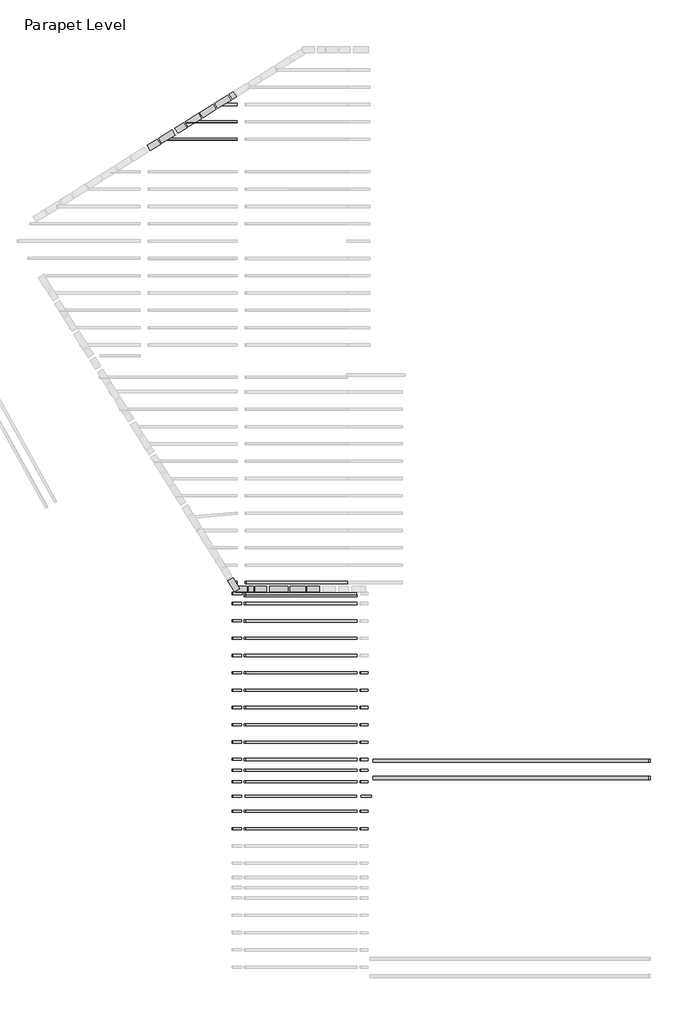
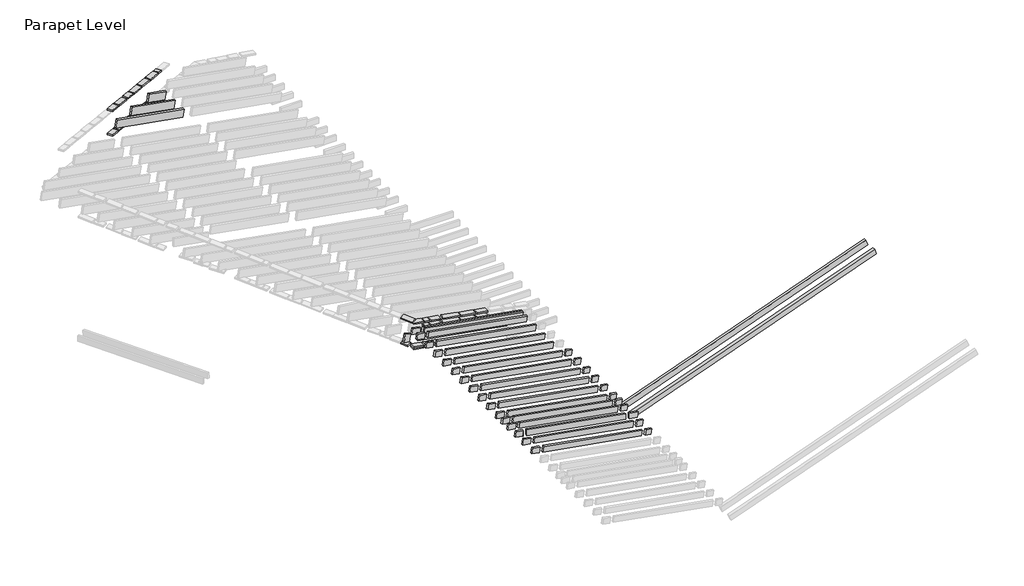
# One storey, part 3 of 4: 85 beams.
"""IFC4 building model written with IfcOpenShell, lengths in millimetres."""

from ifc_helpers import new_model, si_unit, frame, origin, place, context, project, spatial, polyline, outline, extrude, faceted_brep, transform, mapped, element, save
from components import beam_50x150_21f94889, beam_50x150_4e307baa, beam_50x150_b006d7be, beam_50x150_5c7ec585, beam_50x150_ea457183, beam_50x150_991030f9, beam_50x225_7f7f86ef, beam_50x225_1ea18a3f, beam_50x225_a7e6d11b, beam_50x225_69942fed, beam_50x225_0182384d, beam_75x150_52f7aa44

model = new_model("IFC4")

# Units and contexts
model_context = context("Model", 3, world=origin())
ifc_project = project(units=[si_unit("LENGTHUNIT", "METRE", prefix="MILLI")], contexts=[model_context])

# Site, building, storey
site = spatial("IfcSite", under=ifc_project)
building = spatial("IfcBuilding", under=site)
storey = spatial("IfcBuildingStorey", under=building, Name="Parapet Level", Elevation=4242.0)

# Beams
placement = place(None, origin())
element("IfcBeam", 1, ObjectType="Graded Timber : 38x140", at=placement, inside=storey, context=model_context, shape_type="Brep", body=[
    faceted_brep([(-31996.4873155, 17306.1805045, 3209.5723829), (-31996.4873155, 17306.1805046, 3247.9948807), (-31922.2986167, 17187.4537723, 3247.9948807), (-31922.2986166, 17187.4537722, 3209.5723829), (-32091.4687023, 17246.829547, 3264.7426618), (-32091.4687023, 17246.8295469, 3226.320164), (-32017.2800034, 17128.1028148, 3264.7426618), (-32017.2800034, 17128.1028147, 3226.320164)], [[[0, 1, 2, 3]], [[4, 1, 0, 5]], [[6, 2, 1, 4]], [[7, 3, 2, 6]], [[5, 0, 3, 7]], [[4, 5, 7, 6]]]),
])
element("IfcBeam", 2, ObjectType="Graded Timber : 38x140", at=placement, inside=storey, context=model_context, shape_type="Brep", body=[
    faceted_brep([(-32769.9071549, 16822.8941512, 3384.3696657), (-32462.913744, 17014.7249247, 3330.2384445), (-32462.913744, 17014.7249246, 3291.8159467), (-32769.9071549, 16822.8941511, 3345.9471679), (-32695.718456, 16704.1674189, 3384.3696657), (-32388.7250452, 16895.9981924, 3330.2384445), (-32388.7250451, 16895.9981924, 3291.8159467), (-32695.718456, 16704.1674188, 3345.9471679)], [[[0, 1, 2, 3]], [[4, 5, 1, 0]], [[2, 1, 5, 6]], [[3, 2, 6, 7]], [[7, 6, 5, 4]], [[0, 3, 7, 4]]]),
])
element("IfcBeam", 3, ObjectType="Graded Timber : 38x140", at=placement, inside=storey, context=model_context, shape_type="Brep", body=[
    faceted_brep([(-33109.1263934, 16610.9264456, 3444.1831699), (-32802.1329826, 16802.7572192, 3390.0519486), (-32802.1329825, 16802.7572191, 3351.6294508), (-33109.1263934, 16610.9264455, 3405.760672), (-33034.9376945, 16492.1997133, 3444.1831699), (-32727.9442837, 16684.0304869, 3390.0519486), (-32727.9442836, 16684.0304868, 3351.6294508), (-33034.9376945, 16492.1997133, 3405.760672)], [[[0, 1, 2, 3]], [[4, 5, 1, 0]], [[2, 1, 5, 6]], [[3, 2, 6, 7]], [[7, 6, 5, 4]], [[0, 3, 7, 4]]]),
])
element("IfcBeam", 4, ObjectType="Graded Timber : 38x140", at=placement, inside=storey, context=model_context, shape_type="Brep", body=[
    faceted_brep([(-33349.8796966, 16460.4870852, 3486.6344729), (-33141.3522211, 16590.7895136, 3449.8654527), (-33141.352221, 16590.7895135, 3411.4429549), (-33349.8796965, 16460.4870852, 3448.2119751), (-33275.6909977, 16341.760353, 3486.6344729), (-33067.1635222, 16472.0627813, 3449.8654527), (-33067.1635222, 16472.0627812, 3411.4429549), (-33275.6909976, 16341.7603529, 3448.2119751)], [[[0, 1, 2, 3]], [[4, 5, 1, 0]], [[2, 1, 5, 6]], [[3, 2, 6, 7]], [[7, 6, 5, 4]], [[0, 3, 7, 4]]]),
])
element("IfcBeam", 5, ObjectType="Graded Timber : 38x140", at=placement, inside=storey, context=model_context, shape_type="Brep", body=[
    faceted_brep([(-33414.3313518, 16420.2132211, 3459.5765408), (-33414.3313519, 16420.2132212, 3497.9990387), (-33340.142653, 16301.4864889, 3497.9990387), (-33340.1426529, 16301.4864888, 3459.5765408), (-33721.3323387, 16228.3777137, 3552.1315957), (-33721.3323387, 16228.3777136, 3513.7090979), (-33647.1436398, 16109.6509814, 3552.1315957), (-33647.1436398, 16109.6509813, 3513.7090979)], [[[0, 1, 2, 3]], [[4, 1, 0, 5]], [[6, 2, 1, 4]], [[7, 3, 2, 6]], [[5, 0, 3, 7]], [[4, 5, 7, 6]]]),
])
element("IfcBeam", 6, ObjectType="Graded Timber : 38x140", at=placement, inside=storey, context=model_context, shape_type="Brep", body=[
    faceted_brep([(-33987.6118722, 16061.9877943, 3599.0838619), (-33987.6118721, 16061.9877942, 3560.6613641), (-33913.4231732, 15943.2610619, 3560.6613641), (-33913.4231733, 15943.261062, 3599.0838619), (-33753.5581664, 16208.2407816, 3557.8138786), (-33753.5581663, 16208.2407816, 3519.3913808), (-33679.3694674, 16089.5140493, 3519.3913808), (-33679.3694675, 16089.5140494, 3557.8138786)], [[[0, 1, 2, 3]], [[0, 4, 5, 1]], [[1, 5, 6, 2]], [[2, 6, 7, 3]], [[3, 7, 4, 0]], [[4, 7, 6, 5]]]),
])
element("IfcBeam", 7, ObjectType="Graded Timber : 38x140", at=placement, inside=storey, context=model_context, shape_type="Brep", body=[
    faceted_brep([(-32017.2799899, 17128.102793, 3944.7819214), (-31922.2986031, 17187.4537506, 3928.0341402), (-31996.487302, 17306.1804829, 3928.0341405), (-32091.4686887, 17246.8295253, 3944.7819217), (-32017.2799899, 17128.102793, 3906.3594235), (-31922.2986031, 17187.4537506, 3889.6116424), (-31996.487302, 17306.1804829, 3889.6116427), (-32091.4686887, 17246.8295253, 3906.3594239)], [[[0, 1, 2, 3]], [[4, 5, 1, 0]], [[3, 2, 6, 7]], [[3, 7, 4, 0]], [[7, 6, 5, 4]], [[2, 1, 5, 6]]]),
])
element("IfcBeam", 8, ObjectType="Graded Timber : 38x140", at=placement, inside=storey, context=model_context, shape_type="Brep", body=[
    faceted_brep([(-32769.9071378, 16822.8941238, 4064.4089256), (-32462.913727, 17014.7248974, 4010.2777044), (-32462.913727, 17014.7248974, 3971.8552066), (-32769.9071378, 16822.8941238, 4025.9864278), (-32695.7184389, 16704.1673915, 4064.4089253), (-32388.7250281, 16895.9981651, 4010.277704), (-32388.7250281, 16895.9981651, 3971.8552062), (-32695.7184389, 16704.1673915, 4025.9864274)], [[[0, 1, 2, 3]], [[4, 5, 1, 0]], [[2, 1, 5, 6]], [[3, 2, 6, 7]], [[7, 6, 5, 4]], [[0, 3, 7, 4]]]),
])
element("IfcBeam", 9, ObjectType="Graded Timber : 38x140", at=placement, inside=storey, context=model_context, shape_type="Brep", body=[
    faceted_brep([(-33109.1263728, 16610.9264127, 4124.2224297), (-32802.132962, 16802.7571863, 4070.0912085), (-32802.132962, 16802.7571863, 4031.6687107), (-33109.1263728, 16610.9264127, 4085.7999319), (-33034.9376739, 16492.1996804, 4124.2224294), (-32727.9442631, 16684.030454, 4070.0912082), (-32727.9442631, 16684.030454, 4031.6687103), (-33034.9376739, 16492.1996804, 4085.7999316)], [[[0, 1, 2, 3]], [[4, 5, 1, 0]], [[2, 1, 5, 6]], [[3, 2, 6, 7]], [[7, 6, 5, 4]], [[0, 3, 7, 4]]]),
])
element("IfcBeam", 10, ObjectType="Graded Timber : 38x140", at=placement, inside=storey, context=model_context, shape_type="Brep", body=[
    faceted_brep([(-33349.8796759, 16460.4870522, 4166.6737327), (-33141.3522005, 16590.7894806, 4129.9047126), (-33141.3522005, 16590.7894806, 4091.4822148), (-33349.8796759, 16460.4870522, 4128.2512349), (-33275.690977, 16341.7603199, 4166.6737324), (-33067.1635016, 16472.0627483, 4129.9047123), (-33067.1635016, 16472.0627483, 4091.4822145), (-33275.690977, 16341.7603199, 4128.2512346)], [[[0, 1, 2, 3]], [[4, 5, 1, 0]], [[6, 2, 1, 5]], [[3, 2, 6, 7]], [[7, 6, 5, 4]], [[0, 3, 7, 4]]]),
])
element("IfcBeam", 11, ObjectType="Graded Timber : 38x140", at=placement, inside=storey, context=model_context, shape_type="Brep", body=[
    faceted_brep([(-33414.3313312, 16420.2131881, 4139.6158007), (-33414.3313312, 16420.2131881, 4178.0382985), (-33340.1426323, 16301.4864558, 4178.0382982), (-33340.1426323, 16301.4864558, 4139.6158004), (-33721.332318, 16228.3776805, 4232.1708556), (-33721.332318, 16228.3776805, 4193.7483578), (-33647.1436191, 16109.6509482, 4232.1708553), (-33647.1436191, 16109.6509482, 4193.7483574)], [[[0, 1, 2, 3]], [[4, 1, 0, 5]], [[6, 2, 1, 4]], [[7, 3, 2, 6]], [[5, 0, 3, 7]], [[4, 5, 7, 6]]]),
])
element("IfcBeam", 12, ObjectType="Graded Timber : 38x140", at=placement, inside=storey, context=model_context, shape_type="Brep", body=[
    faceted_brep([(-33987.6118514, 16061.987761, 4279.1231217), (-33987.6118514, 16061.987761, 4240.7006239), (-33913.4231525, 15943.2610287, 4240.7006236), (-33913.4231525, 15943.2610287, 4279.1231214), (-33753.5581456, 16208.2407484, 4237.8531385), (-33753.5581456, 16208.2407484, 4199.4306407), (-33679.3694467, 16089.5140162, 4199.4306403), (-33679.3694467, 16089.5140162, 4237.8531382)], [[[0, 1, 2, 3]], [[0, 4, 5, 1]], [[1, 5, 6, 2]], [[2, 6, 7, 3]], [[3, 7, 4, 0]], [[4, 7, 6, 5]]]),
])
element("IfcBeam", 13, ObjectType="Graded Timber : 38x140", at=placement, inside=storey, context=model_context, shape_type="Brep", body=[
    faceted_brep([(-31966.579328, 5753.3582221, 3930.4584603), (-31968.4527436, 5756.3563137, 3892.6232682), (-31849.72601, 5830.5450106, 3892.623268), (-31847.8525944, 5827.546919, 3930.4584601), (-32121.9966023, 6002.0778533, 3957.8627191), (-32121.9966024, 6002.0778533, 3919.6971933), (-32003.2698701, 6076.2665522, 3919.6971933), (-32003.26987, 6076.2665522, 3957.8627191)], [[[0, 1, 2, 3]], [[1, 0, 4, 5]], [[2, 1, 5, 6]], [[3, 2, 6, 7]], [[0, 3, 7, 4]], [[5, 4, 7, 6]]]),
])
element("IfcBeam", 14, ObjectType="Graded Timber : 38x140", at=placement, inside=storey, context=model_context, shape_type="Brep", body=[
    faceted_brep([(-32028.1308586, 5851.860963, 3251.4526954), (-32121.9967367, 6002.0777693, 3268.0037824), (-32121.9967368, 6002.0777693, 3229.8382566), (-32028.1308586, 5851.860963, 3213.2871696), (-31909.4041263, 5926.0496619, 3251.4526954), (-32003.2700044, 6076.2664682, 3268.0037824), (-32003.2700045, 6076.2664682, 3229.8382566), (-31909.4041264, 5926.0496619, 3213.2871696)], [[[0, 1, 2, 3]], [[4, 5, 1, 0]], [[2, 1, 5, 6]], [[3, 2, 6, 7]], [[7, 6, 5, 4]], [[0, 3, 7, 4]]]),
])
element("IfcBeam", 15, ObjectType="Graded Timber : 38x140", at=placement, inside=storey, context=model_context, shape_type="SweptSolid", body=[
    extrude(outline(polyline([(24.2348164, 0.0), (286.436591, 0.0), (293.1368666, -38.0), (30.9350921, -38.0), (24.2348164, 0.0)])), frame((-31207.0704595, 5877.100158, 3737.211336), z_axis=(0.0, -0.9999993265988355, 0.0011605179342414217), x_axis=(-0.9848084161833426, 0.00020151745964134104, 0.17364429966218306)), (0.0, 0.0, 1.0), 140.0),
])
element("IfcBeam", 16, ObjectType="Graded Timber : 38x140", at=placement, inside=storey, context=model_context, shape_type="SweptSolid", body=[
    extrude(outline(polyline([(3.5267544, 1e-07), (437.9071665, 0.0), (444.6074421, -38.0), (10.22703, -37.9999999), (3.5267544, 1e-07)])), frame((-30723.6824476, 5877.0830947, 3651.9788533), z_axis=(0.0, -0.9999993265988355, 0.0011605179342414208), x_axis=(-0.9848084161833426, 0.00020151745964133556, 0.17364429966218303)), (0.0, 0.0, 1.0), 140.0),
])
element("IfcBeam", 17, ObjectType="Graded Timber : 38x140", at=placement, inside=storey, context=model_context, shape_type="SweptSolid", body=[
    extrude(outline(polyline([(3.5267544, 0.0), (371.1109403, 0.0), (377.811216, -38.0), (10.22703, -38.0), (3.5267544, 0.0)])), frame((-30323.6824476, 5877.0830947, 3581.4495886), z_axis=(0.0, -0.9999993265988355, 0.0011605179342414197), x_axis=(-0.9848084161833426, 0.00020151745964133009, 0.173644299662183)), (0.0, 0.0, 1.0), 140.0),
])
element("IfcBeam", 18, ObjectType="Graded Timber : 38x140", at=placement, inside=storey, context=model_context, shape_type="SweptSolid", body=[
    extrude(outline(polyline([(170.4814903, 0.0), (461.1151908, 0.0), (467.8154664, -38.0000001), (177.1817659, -38.0), (170.4814903, 0.0)])), frame((-29835.0455043, 5877.0649572, 3495.2915989), z_axis=(0.0, -0.9999993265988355, 0.0011605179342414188), x_axis=(-0.9848084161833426, 0.0002015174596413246, 0.17364429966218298)), (0.0, 0.0, 1.0), 140.0),
])
element("IfcBeam", 19, ObjectType="Graded Timber : 38x140", at=placement, inside=storey, context=model_context, shape_type="SweptSolid", body=[
    extrude(outline(polyline([(13.4313549, 0.0), (282.5192258, 0.0), (289.2195014, -38.0), (20.1316305, -38.0), (13.4313549, 0.0)])), frame((-31664.3742056, 5876.4394329, 3817.8453451), z_axis=(0.0, -0.9999993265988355, 0.0011605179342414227), x_axis=(-0.9848084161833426, 0.0002015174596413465, 0.1736442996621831)), (0.0, 0.0, 1.0), 140.0),
])
element("IfcBeam", 20, ObjectType="Graded Timber : 38x140", at=placement, inside=storey, context=model_context, shape_type="SweptSolid", body=[
    extrude(outline(polyline([(79.511361, 0.0), (193.6918352, 0.0), (200.3921108, -38.0000001), (86.2116366, -38.0), (79.511361, 0.0)])), frame((-31448.8521675, 5877.034635, 3779.6673922), z_axis=(0.0, -0.9999993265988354, 0.0011605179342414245), x_axis=(-0.9848084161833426, 0.00020151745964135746, 0.17364429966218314)), (0.0, 0.0, 1.0), 140.0),
])
element("IfcBeam", 21, ObjectType="Graded Timber : 38x140", at=placement, inside=storey, context=model_context, shape_type="SweptSolid", body=[
    extrude(outline(polyline([(220.8718175, 0.0), (511.5055181, 0.0), (518.2057937, -38.0000001), (227.5720932, -38.0), (220.8718175, 0.0)])), frame((-29785.4206859, 5876.6942536, 3363.6141245), z_axis=(0.0, -0.9999993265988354, 0.0011605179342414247), x_axis=(-0.9848084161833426, 0.00020151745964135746, 0.17364429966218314)), (0.0, 0.0, 1.0), 140.0),
])
element("IfcBeam", 22, ObjectType="Graded Timber : 38x140", at=placement, inside=storey, context=model_context, shape_type="SweptSolid", body=[
    extrude(outline(polyline([(79.2008384, 0.0), (446.7850244, 0.0), (453.4853, -38.0), (85.901114, -38.0), (79.2008384, 0.0)])), frame((-30249.1579728, 5876.7891463, 3445.2207891), z_axis=(0.0, -0.9999993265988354, 0.001160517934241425), x_axis=(-0.9848084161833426, 0.00020151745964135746, 0.17364429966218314)), (0.0, 0.0, 1.0), 140.0),
])
element("IfcBeam", 23, ObjectType="Graded Timber : 38x140", at=placement, inside=storey, context=model_context, shape_type="SweptSolid", body=[
    extrude(outline(polyline([(8.2007114, 0.0), (442.5811235, 0.0), (449.2813992, -38.0), (14.900987, -37.9999999), (8.2007114, 0.0)])), frame((-30719.0794954, 5876.8853045, 3528.2430881), z_axis=(0.0, -0.9999993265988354, 0.0011605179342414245), x_axis=(-0.9848084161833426, 0.00020151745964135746, 0.17364429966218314)), (0.0, 0.0, 1.0), 140.0),
])
element("IfcBeam", 24, ObjectType="Graded Timber : 38x140", at=placement, inside=storey, context=model_context, shape_type="SweptSolid", body=[
    extrude(outline(polyline([(26.8427693, 0.0), (141.0232434, 0.0), (147.723519, -38.0), (33.5430449, -37.9999999), (26.8427693, 0.0)])), frame((-31500.7206399, 5877.0452486, 3666.0656961), z_axis=(0.0, -0.9999993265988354, 0.0011605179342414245), x_axis=(-0.9848084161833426, 0.00020151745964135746, 0.17364429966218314)), (0.0, 0.0, 1.0), 140.0),
])
element("IfcBeam", 25, ObjectType="Graded Timber : 38x140", at=placement, inside=storey, context=model_context, shape_type="SweptSolid", body=[
    extrude(outline(polyline([(76.4381689, 0.0), (338.6399435, 0.0), (345.3402191, -38.0), (83.1384446, -38.0), (76.4381689, 0.0)])), frame((-31155.6601586, 5876.9746403, 3605.223623), z_axis=(0.0, -0.9999993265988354, 0.0011605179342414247), x_axis=(-0.9848084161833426, 0.00020151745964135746, 0.17364429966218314)), (0.0, 0.0, 1.0), 140.0),
])
element("IfcBeam", 26, ObjectType="Graded Timber : 38x140", at=placement, inside=storey, context=model_context, shape_type="SweptSolid", body=[
    extrude(outline(polyline([(29.7207775, 0.0), (143.9012516, 1e-07), (150.6015272, -38.0), (36.4210531, -38.0), (29.7207775, 0.0)])), frame((-31497.8863532, 5876.9857477, 3626.9797871), z_axis=(0.0, -0.9999993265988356, 0.0011605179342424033), x_axis=(-0.9848084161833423, 0.00020151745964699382, 0.17364429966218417)), (0.0, 0.0, 1.0), 140.0),
])
element("IfcBeam", 27, ObjectType="Graded Timber : 38x140", at=placement, inside=storey, context=model_context, shape_type="SweptSolid", body=[
    extrude(outline(polyline([(68.4675124, -1e-07), (330.6692869, -1e-07), (337.3695625, -38.0000001), (75.167788, -38.0), (68.4675124, -1e-07)])), frame((-31163.5097283, 5876.9173255, 3568.1839953), z_axis=(0.0, -0.9999993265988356, 0.0011605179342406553), x_axis=(-0.9848084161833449, 0.00020151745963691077, 0.17364429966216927)), (0.0, 0.0, 1.0), 140.0),
])
element("IfcBeam", 28, ObjectType="Graded Timber : 38x140", at=placement, inside=storey, context=model_context, shape_type="SweptSolid", body=[
    extrude(outline(polyline([(27.0494112, 0.0), (296.1372821, 0.0), (302.8375578, -38.0000001), (33.7496868, -38.0000001), (27.0494112, 0.0)])), frame((-31650.9630291, 5877.017776, 3157.8953738), z_axis=(0.0, -0.9999993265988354, 0.0011605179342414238), x_axis=(-0.9848084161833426, 0.00020151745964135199, 0.17364429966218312)), (0.0, 0.0, 1.0), 140.0),
])
element("IfcBeam", 29, ObjectType="Graded Timber : 38x140", at=placement, inside=storey, context=model_context, shape_type="SweptSolid", body=[
    extrude(outline(polyline([(27.0494112, 1e-07), (296.1372821, 1e-07), (302.8375578, -38.0), (33.7496868, -38.0), (27.0494112, 1e-07)])), frame((-31650.9630291, 5877.017776, 3119.3092146), z_axis=(0.0, -0.9999993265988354, 0.001160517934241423), x_axis=(-0.9848084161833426, 0.0002015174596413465, 0.1736442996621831)), (0.0, 0.0, 1.0), 140.0),
])
element("IfcBeam", 30, ObjectType="Graded Timber : 38x140", at=placement, inside=storey, context=model_context, shape_type="SweptSolid", body=[
    extrude(outline(polyline([(79.511361, 1e-07), (193.6918351, 1e-07), (200.3921108, -38.0), (86.2116366, -37.9999999), (79.511361, 1e-07)])), frame((-31448.8521675, 5877.0881072, 3122.1163444), z_axis=(0.0, -0.9999993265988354, 0.0011605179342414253), x_axis=(-0.9848084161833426, 0.00020151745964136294, 0.17364429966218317)), (0.0, 0.0, 1.0), 140.0),
])
element("IfcBeam", 31, ObjectType="Graded Timber : 38x140", at=placement, inside=storey, context=model_context, shape_type="SweptSolid", body=[
    extrude(outline(polyline([(152.0053511, -1e-07), (414.2071257, 0.0), (420.9074013, -38.0000001), (158.7056268, -38.0000001), (152.0053511, -1e-07)])), frame((-31081.2409616, 5876.9594121, 3057.2981236), z_axis=(0.0, -0.9999993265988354, 0.0011605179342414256), x_axis=(-0.9848084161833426, 0.00020151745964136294, 0.17364429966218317)), (0.0, 0.0, 1.0), 140.0),
])
element("IfcBeam", 32, ObjectType="Graded Timber : 38x140", at=placement, inside=storey, context=model_context, shape_type="Brep", body=[
    faceted_brep([(-32356.4992175, 16916.1351245, 3324.5561616), (-32049.5058066, 17107.965898, 3270.4249404), (-32123.6945055, 17226.6926303, 3270.4249404), (-32430.6879164, 17034.8618567, 3324.5561616), (-32356.4992174, 16916.1351244, 3286.1336638), (-32049.5058066, 17107.9658979, 3232.0024426), (-32123.6945055, 17226.6926302, 3232.0024426), (-32430.6879163, 17034.8618567, 3286.1336638)], [[[0, 1, 2, 3]], [[4, 5, 1, 0]], [[3, 2, 6, 7]], [[3, 7, 4, 0]], [[7, 6, 5, 4]], [[2, 1, 5, 6]]]),
])
element("IfcBeam", 33, ObjectType="Graded Timber : 38x140", at=placement, inside=storey, context=model_context, shape_type="Brep", body=[
    faceted_brep([(-32356.4992038, 16916.1351026, 4004.5954212), (-32049.505793, 17107.9658763, 3950.4641999), (-32123.6944919, 17226.6926085, 3950.4642003), (-32430.6879027, 17034.8618349, 4004.5954215), (-32356.4992038, 16916.1351026, 3966.1729233), (-32049.505793, 17107.9658763, 3912.0417021), (-32123.6944919, 17226.6926085, 3912.0417024), (-32430.6879027, 17034.8618349, 3966.1729237)], [[[0, 1, 2, 3]], [[4, 5, 1, 0]], [[3, 2, 6, 7]], [[3, 7, 4, 0]], [[7, 6, 5, 4]], [[2, 1, 5, 6]]]),
])
element("IfcBeam", 34, ObjectType="Graded Timber : 50x150", at=placement, inside=storey, context=model_context, shape_type="SweptSolid", body=[
    extrude(outline(polyline([(3288.7694641, -29142.1341292), (3742.7005252, -31716.5051035), (3594.9793623, -31742.5523301), (3136.4554723, -29142.1341292), (3288.7694641, -29142.1341292)])), frame((0.0, 5684.8339753, 0.0), z_axis=(0.0, 1.0, 0.0), x_axis=(0.0, 0.0, 1.0)), (0.0, 0.0, 1.0), 50.0),
])
element("IfcBeam", 35, ObjectType="Graded Timber : 50x150", at=placement, inside=storey, context=model_context, shape_type="SweptSolid", body=[
    extrude(outline(polyline([(3081.779548, -28832.0515536), (3229.500711, -28806.004327), (3271.1367661, -29042.1341292), (3118.8227743, -29042.1341292), (3081.779548, -28832.0515536)])), frame((0.0, 1006.80418, 0.0), z_axis=(0.0, 1.0, 0.0), x_axis=(0.0, 0.0, 1.0)), (0.0, 0.0, 1.0), 50.0),
])
element("IfcBeam", 36, ObjectType="Graded Timber : 50x150", at=placement, inside=storey, context=model_context, shape_type="SweptSolid", body=[
    extrude(outline(polyline([(3288.7694641, -29142.1341292), (3743.3090041, -31719.9559584), (3590.9950123, -31719.9559584), (3136.4554723, -29142.1341292), (3288.7694641, -29142.1341292)])), frame((0.0, 1006.80418, 0.0), z_axis=(0.0, 1.0, 0.0), x_axis=(0.0, 0.0, 1.0)), (0.0, 0.0, 1.0), 50.0),
])
element("IfcBeam", 37, ObjectType="Graded Timber : 50x150", at=placement, inside=storey, context=model_context, shape_type="SweptSolid", body=[
    extrude(outline(polyline([(3760.9417021, -31819.9559584), (3792.2694665, -31997.624539), (3644.5483036, -32023.6717656), (3608.6277104, -31819.9559584), (3760.9417021, -31819.9559584)])), frame((0.0, 1006.80418, 0.0), z_axis=(0.0, 1.0, 0.0), x_axis=(0.0, 0.0, 1.0)), (0.0, 0.0, 1.0), 50.0),
])
beam_50x150_shape = beam_50x150_21f94889(model_context)
element("IfcBeam", 38, ObjectType="Graded Timber : 50x150", at=placement, inside=storey, context=model_context, shape_type="MappedRepresentation", body=[
    mapped(beam_50x150_shape, transform((-28977.581783, 278.787171, 3183.5974499), x_axis=(0.9848077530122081, 0.0, -0.17364817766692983), y_axis=(0.0, 1.0, 0.0), z_axis=(0.17364817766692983, 0.0, 0.9848077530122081))),
])
element("IfcBeam", 39, ObjectType="Graded Timber : 50x150", at=placement, inside=storey, context=model_context, shape_type="MappedRepresentation", body=[
    mapped(beam_50x150_shape, transform((-28977.5813821, 678.787171, 3183.5973792), x_axis=(0.9848077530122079, 0.0, -0.173648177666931), y_axis=(0.0, 1.0, 0.0), z_axis=(0.17364817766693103, 0.0, 0.984807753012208))),
])
element("IfcBeam", 40, ObjectType="Graded Timber : 50x150", at=placement, inside=storey, context=model_context, shape_type="MappedRepresentation", body=[
    mapped(beam_50x150_shape, transform((-28977.5801794, 1878.787171, 3183.5971671), x_axis=(0.9848077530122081, 0.0, -0.17364817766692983), y_axis=(0.0, 1.0, 0.0), z_axis=(0.17364817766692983, 0.0, 0.9848077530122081))),
])
element("IfcBeam", 41, ObjectType="Graded Timber : 50x150", at=placement, inside=storey, context=model_context, shape_type="MappedRepresentation", body=[
    mapped(beam_50x150_shape, transform((-28977.5805803, 1626.4648405, 3183.5972378), x_axis=(0.9848077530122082, 0.0, -0.17364817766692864), y_axis=(0.0, 0.9999999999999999, 0.0), z_axis=(0.17364817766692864, 0.0, 0.9848077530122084))),
])
beam_50x150_2_shape = beam_50x150_4e307baa(model_context)
element("IfcBeam", 42, ObjectType="Graded Timber : 50x150", at=placement, inside=storey, context=model_context, shape_type="MappedRepresentation", body=[
    mapped(beam_50x150_2_shape, transform((-31915.7468054, 280.513771, 3701.6752171), x_axis=(0.9848077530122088, 0.0, -0.17364817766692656), y_axis=(0.0, 1.0000000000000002, 0.0), z_axis=(0.17364817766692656, 0.0, 0.9848077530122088))),
])
element("IfcBeam", 43, ObjectType="Graded Timber : 50x150", at=placement, inside=storey, context=model_context, shape_type="MappedRepresentation", body=[
    mapped(beam_50x150_2_shape, transform((-31915.7468054, 680.513771, 3701.6752171), x_axis=(0.9848077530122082, 0.0, -0.17364817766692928), y_axis=(0.0, 1.0, 0.0), z_axis=(0.17364817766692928, 0.0, 0.9848077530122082))),
])
element("IfcBeam", 44, ObjectType="Graded Timber : 50x150", at=placement, inside=storey, context=model_context, shape_type="MappedRepresentation", body=[
    mapped(beam_50x150_2_shape, transform((-31915.7468054, 1880.513771, 3701.6752171), x_axis=(0.9848077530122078, 0.0, -0.173648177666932), y_axis=(0.0, 1.0, 0.0), z_axis=(0.173648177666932, 0.0, 0.9848077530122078))),
])
element("IfcBeam", 45, ObjectType="Graded Timber : 50x150", at=placement, inside=storey, context=model_context, shape_type="MappedRepresentation", body=[
    mapped(beam_50x150_2_shape, transform((-31915.7468054, 2280.513771, 3701.6752171), x_axis=(0.9848077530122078, 0.0, -0.173648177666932), y_axis=(0.0, 1.0, 0.0), z_axis=(0.173648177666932, 0.0, 0.9848077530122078))),
])
element("IfcBeam", 46, ObjectType="Graded Timber : 50x150", at=placement, inside=storey, context=model_context, shape_type="MappedRepresentation", body=[
    mapped(beam_50x150_2_shape, transform((-31915.7468054, 2680.513771, 3701.6752171), x_axis=(0.9848077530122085, 0.0, -0.17364817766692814), y_axis=(0.0, 1.0, 0.0), z_axis=(0.17364817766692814, 0.0, 0.9848077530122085))),
])
element("IfcBeam", 47, ObjectType="Graded Timber : 50x150", at=placement, inside=storey, context=model_context, shape_type="MappedRepresentation", body=[
    mapped(beam_50x150_2_shape, transform((-31915.7468054, 3080.513771, 3701.6752171), x_axis=(0.9848077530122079, 0.0, -0.17364817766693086), y_axis=(0.0, 1.0, 0.0), z_axis=(0.1736481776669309, 0.0, 0.984807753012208))),
])
element("IfcBeam", 48, ObjectType="Graded Timber : 50x150", at=placement, inside=storey, context=model_context, shape_type="MappedRepresentation", body=[
    mapped(beam_50x150_2_shape, transform((-31915.7468054, 3480.513771, 3701.6752171), x_axis=(0.9848077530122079, 0.0, -0.17364817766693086), y_axis=(0.0, 1.0, 0.0), z_axis=(0.1736481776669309, 0.0, 0.984807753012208))),
])
element("IfcBeam", 49, ObjectType="Graded Timber : 50x150", at=placement, inside=storey, context=model_context, shape_type="MappedRepresentation", body=[
    mapped(beam_50x150_2_shape, transform((-31915.7468054, 3880.513771, 3701.6752171), x_axis=(0.9848077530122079, 0.0, -0.17364817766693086), y_axis=(0.0, 1.0, 0.0), z_axis=(0.1736481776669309, 0.0, 0.984807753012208))),
])
element("IfcBeam", 50, ObjectType="Graded Timber : 50x150", at=placement, inside=storey, context=model_context, shape_type="MappedRepresentation", body=[
    mapped(beam_50x150_2_shape, transform((-31915.7468054, 4280.513771, 3701.6752171), x_axis=(0.9848077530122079, 0.0, -0.17364817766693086), y_axis=(0.0, 1.0, 0.0), z_axis=(0.1736481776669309, 0.0, 0.984807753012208))),
])
element("IfcBeam", 51, ObjectType="Graded Timber : 50x150", at=placement, inside=storey, context=model_context, shape_type="MappedRepresentation", body=[
    mapped(beam_50x150_2_shape, transform((-31915.7468054, 4680.513771, 3701.6752171), x_axis=(0.9848077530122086, 0.0, -0.17364817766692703), y_axis=(0.0, 1.0, 0.0), z_axis=(0.17364817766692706, 0.0, 0.9848077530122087))),
])
element("IfcBeam", 52, ObjectType="Graded Timber : 50x150", at=placement, inside=storey, context=model_context, shape_type="MappedRepresentation", body=[
    mapped(beam_50x150_2_shape, transform((-31915.7468054, 5080.513771, 3701.6752171), x_axis=(0.9848077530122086, 0.0, -0.17364817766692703), y_axis=(0.0, 1.0, 0.0), z_axis=(0.17364817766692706, 0.0, 0.9848077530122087))),
])
element("IfcBeam", 53, ObjectType="Graded Timber : 50x150", at=placement, inside=storey, context=model_context, shape_type="MappedRepresentation", body=[
    mapped(beam_50x150_2_shape, transform((-31915.7468054, 5480.513771, 3701.6752171), x_axis=(0.9848077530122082, 0.0, -0.17364817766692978), y_axis=(0.0, 1.0000000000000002, 0.0), z_axis=(0.17364817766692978, 0.0, 0.9848077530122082))),
])
element("IfcBeam", 54, ObjectType="Graded Timber : 50x150", at=placement, inside=storey, context=model_context, shape_type="MappedRepresentation", body=[
    mapped(beam_50x150_2_shape, transform((-31915.7468054, 1366.80418, 3701.6752171), x_axis=(0.9848077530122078, 0.0, -0.173648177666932), y_axis=(0.0, 1.0, 0.0), z_axis=(0.173648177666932, 0.0, 0.9848077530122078))),
])
element("IfcBeam", 55, ObjectType="Graded Timber : 50x150", at=placement, inside=storey, context=model_context, shape_type="MappedRepresentation", body=[
    mapped(beam_50x150_2_shape, transform((-31915.7468054, 1626.4648405, 3701.6752171), x_axis=(0.9848077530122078, 0.0, -0.173648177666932), y_axis=(0.0, 1.0, 0.0), z_axis=(0.173648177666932, 0.0, 0.9848077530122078))),
])
beam_50x150_3_shape = beam_50x150_b006d7be(model_context)
element("IfcBeam", 56, ObjectType="Graded Timber : 50x150", at=placement, inside=storey, context=model_context, shape_type="MappedRepresentation", body=[
    mapped(beam_50x150_3_shape, transform((-28977.5797785, 2278.787171, 3183.5970964), x_axis=(0.984807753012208, 0.0, -0.17364817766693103), y_axis=(0.0, 1.0000000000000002, 0.0), z_axis=(0.17364817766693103, 0.0, 0.984807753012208))),
])
element("IfcBeam", 57, ObjectType="Graded Timber : 50x150", at=placement, inside=storey, context=model_context, shape_type="MappedRepresentation", body=[
    mapped(beam_50x150_3_shape, transform((-28977.5793776, 2678.787171, 3183.5970257), x_axis=(0.9848077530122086, 0.0, -0.17364817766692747), y_axis=(0.0, 1.0, 0.0), z_axis=(0.17364817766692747, 0.0, 0.9848077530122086))),
])
element("IfcBeam", 58, ObjectType="Graded Timber : 50x150", at=placement, inside=storey, context=model_context, shape_type="MappedRepresentation", body=[
    mapped(beam_50x150_3_shape, transform((-28977.5789767, 3078.787171, 3183.596955), x_axis=(0.9848077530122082, 0.0, -0.17364817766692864), y_axis=(0.0, 0.9999999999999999, 0.0), z_axis=(0.17364817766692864, 0.0, 0.9848077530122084))),
])
element("IfcBeam", 59, ObjectType="Graded Timber : 50x150", at=placement, inside=storey, context=model_context, shape_type="MappedRepresentation", body=[
    mapped(beam_50x150_3_shape, transform((-28977.5785758, 3478.787171, 3183.5968843), x_axis=(0.9848077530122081, 0.0, -0.17364817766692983), y_axis=(0.0, 1.0, 0.0), z_axis=(0.17364817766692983, 0.0, 0.9848077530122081))),
])
element("IfcBeam", 60, ObjectType="Graded Timber : 50x150", at=placement, inside=storey, context=model_context, shape_type="MappedRepresentation", body=[
    mapped(beam_50x150_3_shape, transform((-28977.5781749, 3878.787171, 3183.5968137), x_axis=(0.9848077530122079, 0.0, -0.17364817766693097), y_axis=(0.0, 1.0, 0.0), z_axis=(0.173648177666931, 0.0, 0.984807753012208))),
])
beam_50x150_4_shape = beam_50x150_5c7ec585(model_context)
element("IfcBeam", 61, ObjectType="Graded Timber : 50x150", at=placement, inside=storey, context=model_context, shape_type="MappedRepresentation", body=[
    mapped(beam_50x150_4_shape, transform((-30439.4354499, 278.787171, 3441.3616932), x_axis=(0.9848077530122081, 0.0, -0.17364817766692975), y_axis=(0.0, 1.0, 0.0), z_axis=(0.17364817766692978, 0.0, 0.9848077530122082))),
])
element("IfcBeam", 62, ObjectType="Graded Timber : 50x150", at=placement, inside=storey, context=model_context, shape_type="MappedRepresentation", body=[
    mapped(beam_50x150_4_shape, transform((-30439.4350738, 678.787171, 3441.3616268), x_axis=(0.9848077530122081, 0.0, -0.17364817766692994), y_axis=(0.0, 1.0, 0.0), z_axis=(0.17364817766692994, 0.0, 0.9848077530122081))),
])
element("IfcBeam", 63, ObjectType="Graded Timber : 50x150", at=placement, inside=storey, context=model_context, shape_type="MappedRepresentation", body=[
    mapped(beam_50x150_4_shape, transform((-30439.4343215, 1366.80418, 3441.3614942), x_axis=(0.9848077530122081, 0.0, -0.1736481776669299), y_axis=(0.0, 1.0, 0.0), z_axis=(0.1736481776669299, 0.0, 0.9848077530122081))),
])
element("IfcBeam", 64, ObjectType="Graded Timber : 50x150", at=placement, inside=storey, context=model_context, shape_type="MappedRepresentation", body=[
    mapped(beam_50x150_4_shape, transform((-30439.4339454, 1878.787171, 3441.3614279), x_axis=(0.9848077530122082, 0.0, -0.17364817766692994), y_axis=(0.0, 1.0000000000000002, 0.0), z_axis=(0.17364817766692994, 0.0, 0.9848077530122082))),
])
element("IfcBeam", 65, ObjectType="Graded Timber : 50x150", at=placement, inside=storey, context=model_context, shape_type="MappedRepresentation", body=[
    mapped(beam_50x150_4_shape, transform((-30439.4335693, 2278.787171, 3441.3613616), x_axis=(0.984807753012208, 0.0, -0.17364817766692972), y_axis=(0.0, 0.9999999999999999, 0.0), z_axis=(0.17364817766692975, 0.0, 0.9848077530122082))),
])
element("IfcBeam", 66, ObjectType="Graded Timber : 50x150", at=placement, inside=storey, context=model_context, shape_type="MappedRepresentation", body=[
    mapped(beam_50x150_4_shape, transform((-30439.4331932, 2678.787171, 3441.3612953), x_axis=(0.984807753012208, 0.0, -0.17364817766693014), y_axis=(0.0, 1.0, 0.0), z_axis=(0.17364817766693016, 0.0, 0.9848077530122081))),
])
element("IfcBeam", 67, ObjectType="Graded Timber : 50x150", at=placement, inside=storey, context=model_context, shape_type="MappedRepresentation", body=[
    mapped(beam_50x150_4_shape, transform((-30439.432817, 3078.787171, 3441.3612289), x_axis=(0.9848077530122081, 0.0, -0.17364817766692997), y_axis=(0.0, 1.0, 0.0), z_axis=(0.17364817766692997, 0.0, 0.9848077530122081))),
])
element("IfcBeam", 68, ObjectType="Graded Timber : 50x150", at=placement, inside=storey, context=model_context, shape_type="MappedRepresentation", body=[
    mapped(beam_50x150_4_shape, transform((-30439.4324409, 3478.787171, 3441.3611626), x_axis=(0.9848077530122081, 0.0, -0.17364817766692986), y_axis=(0.0, 1.0, 0.0), z_axis=(0.17364817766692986, 0.0, 0.9848077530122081))),
])
element("IfcBeam", 69, ObjectType="Graded Timber : 50x150", at=placement, inside=storey, context=model_context, shape_type="MappedRepresentation", body=[
    mapped(beam_50x150_4_shape, transform((-30439.4320648, 3878.787171, 3441.3610963), x_axis=(0.9848077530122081, 0.0, -0.17364817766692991), y_axis=(0.0, 1.0, 0.0), z_axis=(0.17364817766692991, 0.0, 0.9848077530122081))),
])
element("IfcBeam", 70, ObjectType="Graded Timber : 50x150", at=placement, inside=storey, context=model_context, shape_type="MappedRepresentation", body=[
    mapped(beam_50x150_4_shape, transform((-30439.4316887, 4278.787171, 3441.36103), x_axis=(0.9848077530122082, 0.0, -0.17364817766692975), y_axis=(0.0, 1.0000000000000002, 0.0), z_axis=(0.17364817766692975, 0.0, 0.9848077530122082))),
])
element("IfcBeam", 71, ObjectType="Graded Timber : 50x150", at=placement, inside=storey, context=model_context, shape_type="MappedRepresentation", body=[
    mapped(beam_50x150_4_shape, transform((-30439.4313126, 4678.787171, 3441.3609637), x_axis=(0.984807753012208, 0.0, -0.1736481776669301), y_axis=(0.0, 1.0, 0.0), z_axis=(0.17364817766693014, 0.0, 0.9848077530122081))),
])
element("IfcBeam", 72, ObjectType="Graded Timber : 50x150", at=placement, inside=storey, context=model_context, shape_type="MappedRepresentation", body=[
    mapped(beam_50x150_4_shape, transform((-30439.4309365, 5078.787171, 3441.3608973), x_axis=(0.984807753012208, 0.0, -0.17364817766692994), y_axis=(0.0, 0.9999999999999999, 0.0), z_axis=(0.17364817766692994, 0.0, 0.9848077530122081))),
])
element("IfcBeam", 73, ObjectType="Graded Timber : 50x150", at=placement, inside=storey, context=model_context, shape_type="MappedRepresentation", body=[
    mapped(beam_50x150_4_shape, transform((-30439.4305603, 5659.8339753, 3441.360831), x_axis=(0.9848077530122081, 0.0, -0.17364817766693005), y_axis=(0.0, 1.0, 0.0), z_axis=(0.17364817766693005, 0.0, 0.9848077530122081))),
])
element("IfcBeam", 74, ObjectType="Graded Timber : 50x150", at=placement, inside=storey, context=model_context, shape_type="MappedRepresentation", body=[
    mapped(beam_50x150_4_shape, transform((-30439.4309365, 5480.513771, 3441.3608973), x_axis=(0.984807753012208, 0.0, -0.17364817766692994), y_axis=(0.0, 0.9999999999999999, 0.0), z_axis=(0.17364817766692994, 0.0, 0.9848077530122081))),
])
element("IfcBeam", 75, ObjectType="Graded Timber : 50x150", at=placement, inside=storey, context=model_context, shape_type="MappedRepresentation", body=[
    mapped(beam_50x150_4_shape, transform((-30439.4343215, 1626.4648405, 3441.3614942), x_axis=(0.9848077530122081, 0.0, -0.1736481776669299), y_axis=(0.0, 1.0, 0.0), z_axis=(0.1736481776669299, 0.0, 0.9848077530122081))),
])
beam_50x150_5_shape = beam_50x150_ea457183(model_context)
element("IfcBeam", 76, ObjectType="Graded Timber : 50x150", at=placement, inside=storey, context=model_context, shape_type="MappedRepresentation", body=[
    mapped(beam_50x150_5_shape, transform((-28937.2040689, 1366.80418, 3176.4777694), x_axis=(0.9848077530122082, 0.0, -0.17364817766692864), y_axis=(0.0, 0.9999999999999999, 0.0), z_axis=(0.17364817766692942, 0.0, 0.9848077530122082))),
])
element("IfcBeam", 77, ObjectType="Graded Timber : 50x150", at=placement, inside=storey, context=model_context, shape_type="MappedRepresentation", body=[
    mapped(beam_50x150_2_shape, transform((-31915.7468054, 1031.80418, 3701.6752171), x_axis=(0.9848077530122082, 0.0, -0.17364817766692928), y_axis=(0.0, 1.0, 0.0), z_axis=(0.17364817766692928, 0.0, 0.9848077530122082))),
])
beam_50x150_6_shape = beam_50x150_991030f9(model_context)
element("IfcBeam", 78, ObjectType="Graded Timber : 50x150", at=placement, inside=storey, context=model_context, shape_type="MappedRepresentation", body=[
    mapped(beam_50x150_6_shape, transform((-31893.2347548, 5712.1718343, 3697.7057352), x_axis=(0.9848077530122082, 0.0, -0.17364817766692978), y_axis=(0.0, 1.0, 0.0), z_axis=(0.17364817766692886, 0.0, 0.9848077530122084))),
])
beam_50x225_shape = beam_50x225_7f7f86ef(model_context)
element("IfcBeam", 79, ObjectType="Graded Timber : 50x225", at=placement, inside=storey, context=model_context, shape_type="MappedRepresentation", body=[
    mapped(beam_50x225_shape, transform((-30540.3098873, 5968.2079383, 3124.2982093), x_axis=(0.9848083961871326, 0.0, -0.1736445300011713), y_axis=(-0.00019845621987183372, 0.9999993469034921, -0.001125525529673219), z_axis=(0.17364441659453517, 0.0011428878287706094, 0.9848077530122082))),
])
beam_50x225_2_shape = beam_50x225_1ea18a3f(model_context)
element("IfcBeam", 80, ObjectType="Graded Timber : 50x225", at=placement, inside=storey, context=model_context, shape_type="MappedRepresentation", body=[
    mapped(beam_50x225_2_shape, transform((-32490.8110173, 16607.4423243, 3455.8697047), x_axis=(0.9848083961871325, 0.0, -0.17364453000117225), y_axis=(-0.00019845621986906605, 0.9999993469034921, -0.0011255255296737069), z_axis=(0.1736444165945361, 0.0011428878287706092, 0.984807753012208))),
])
beam_50x225_3_shape = beam_50x225_a7e6d11b(model_context)
element("IfcBeam", 81, ObjectType="Graded Timber : 50x225", at=placement, inside=storey, context=model_context, shape_type="MappedRepresentation", body=[
    mapped(beam_50x225_3_shape, transform((-31992.3539857, 5966.9833333, 3380.3286368), x_axis=(0.9848083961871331, 0.0, -0.17364453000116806), y_axis=(-0.0001984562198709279, 0.9999993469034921, -0.0011255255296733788), z_axis=(0.17364441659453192, 0.0011428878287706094, 0.9848077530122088))),
])
beam_50x225_4_shape = beam_50x225_69942fed(model_context)
element("IfcBeam", 82, ObjectType="Graded Timber : 50x225", at=placement, inside=storey, context=model_context, shape_type="MappedRepresentation", body=[
    mapped(beam_50x225_4_shape, transform((-32170.8230779, 17007.442063, 3398.9842124), x_axis=(0.9848083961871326, 0.0, -0.17364453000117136), y_axis=(-0.0001984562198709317, 0.9999993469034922, -0.0011255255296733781), z_axis=(0.17364441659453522, 0.0011428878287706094, 0.9848077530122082))),
])
beam_50x225_5_shape = beam_50x225_0182384d(model_context)
element("IfcBeam", 83, ObjectType="Graded Timber : 50x225", at=placement, inside=storey, context=model_context, shape_type="MappedRepresentation", body=[
    mapped(beam_50x225_5_shape, transform((-32810.7989568, 16207.4425855, 3512.755197), x_axis=(0.9848083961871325, 0.0, -0.17364453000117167), y_axis=(-0.00019845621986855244, 0.9999993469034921, -0.0011255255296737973), z_axis=(0.17364441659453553, 0.0011428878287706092, 0.9848077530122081))),
])
beam_75x150_shape = beam_75x150_52f7aa44(model_context)
element("IfcBeam", 84, ObjectType="Graded Timber : 75x150", at=placement, inside=storey, context=model_context, shape_type="MappedRepresentation", body=[
    mapped(beam_75x150_shape, transform((-27056.3096457, 1848.5937113, 3458.7225279), x_axis=(0.9396926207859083, 0.0, 0.3420201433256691), y_axis=(0.0, 1.0, 0.0), z_axis=(-0.342020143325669, 0.0, 0.9396926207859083))),
])
element("IfcBeam", 85, ObjectType="Graded Timber : 75x150", at=placement, inside=storey, context=model_context, shape_type="MappedRepresentation", body=[
    mapped(beam_75x150_shape, transform((-27056.3096457, 1448.5937113, 3458.7225279), x_axis=(0.9396926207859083, 0.0, 0.3420201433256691), y_axis=(0.0, 1.0, 0.0), z_axis=(-0.342020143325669, 0.0, 0.9396926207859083))),
])

save(model, "model.ifc")
